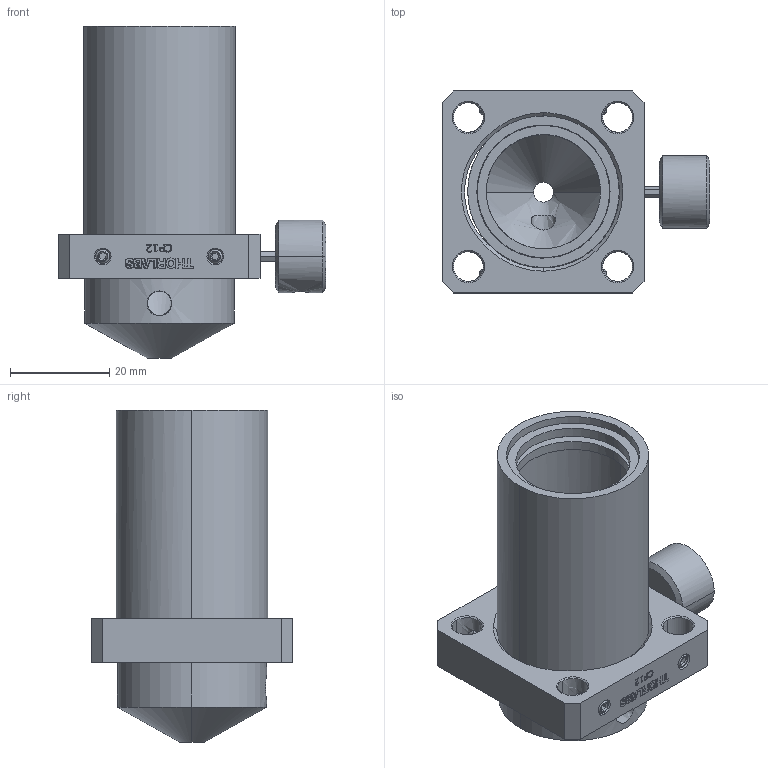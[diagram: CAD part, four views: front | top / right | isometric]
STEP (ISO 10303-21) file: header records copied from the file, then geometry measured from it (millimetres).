
FILE_DESCRIPTION(/* description */ (''),/* implementation_level */ '2;1');
FILE_NAME(/* name */ '10.optics-laser#10.3#',/* time_stamp */ '2014-12-01T20:19:08+01:00',/* author */ (''),/* organization */ (''),/* preprocessor_version */ 'ST-DEVELOPER v14',/* originating_system */ '',/* authorisation */ '');
FILE_SCHEMA (('AUTOMOTIVE_DESIGN'));
Length unit declared in the file: millimetre
Products named in the file (2): Document; nozzle
Assembly tree (1 placements, depth 2):
  Document
    nozzle
Bounding box: 53.91 x 40.64 x 66.8 mm (x, y, z)
Volume: 24870.1 mm3; surface area: 19937.7 mm2
Topology: 12 solids, 13 shells, 927 faces, 2367 edges, 1503 vertices
Faces by surface type: plane 474, bspline 453
Entity records: 68564 total; most frequent: CARTESIAN_POINT 36881, B_SPLINE_CURVE_WITH_KNOTS 6566, ORIENTED_EDGE 4704, PCURVE 4704, DEFINITIONAL_REPRESENTATION 4704, SURFACE_CURVE 2353, EDGE_CURVE 2353, VERTEX_POINT 1503
